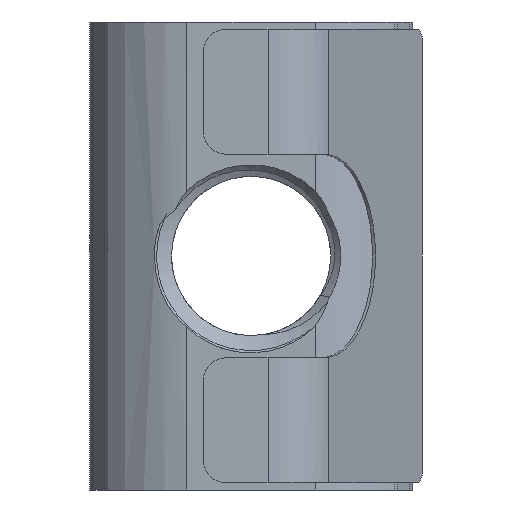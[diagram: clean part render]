
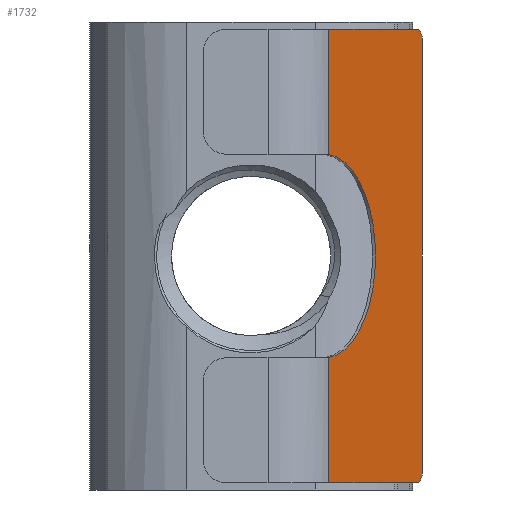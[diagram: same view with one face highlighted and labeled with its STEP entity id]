
A CAD part, front view. The second image highlights one B-rep face of the part: STEP entity #1732.
In plain terms, the highlighted planar face has unit normal (0.866, -0.5, 0) as drawn and (1, 0, 0) by its records, which use the part's own axes.
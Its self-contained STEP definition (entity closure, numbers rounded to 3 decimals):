
#218 = CARTESIAN_POINT ( 'NONE',  ( 0., 1.732, 9.7 ) ) ;
#334 = CARTESIAN_POINT ( 'NONE',  ( 0., 9.228, 9.7 ) ) ;
#463 = CARTESIAN_POINT ( 'NONE',  ( 0., 1.732, -9.7 ) ) ;
#516 = VECTOR ( 'NONE', #2509, 1000. ) ;
#572 = ORIENTED_EDGE ( 'NONE', *, *, #4513, .T. ) ;
#648 = ORIENTED_EDGE ( 'NONE', *, *, #3053, .T. ) ;
#689 = CIRCLE ( 'NONE', #3105, 0.5 ) ;
#844 = LINE ( 'NONE', #4774, #4335 ) ;
#877 = VERTEX_POINT ( 'NONE', #2157 ) ;
#926 = LINE ( 'NONE', #4544, #516 ) ;
#936 = DIRECTION ( 'NONE',  ( 0., 1., 0. ) ) ;
#1034 = EDGE_CURVE ( 'NONE', #1419, #4637, #4945, .T. ) ;
#1055 = ORIENTED_EDGE ( 'NONE', *, *, #1034, .F. ) ;
#1221 = DIRECTION ( 'NONE',  ( 0., 0., 1. ) ) ;
#1345 = CARTESIAN_POINT ( 'NONE',  ( 0., 1.732, 9.7 ) ) ;
#1402 = LINE ( 'NONE', #3020, #3691 ) ;
#1419 = VERTEX_POINT ( 'NONE', #2188 ) ;
#1430 = EDGE_CURVE ( 'NONE', #1419, #2655, #1402, .T. ) ;
#1440 = CIRCLE ( 'NONE', #3856, 0.5 ) ;
#1485 = DIRECTION ( 'NONE',  ( 1., 0., 0. ) ) ;
#1519 = DIRECTION ( 'NONE',  ( -1., 0., 0. ) ) ;
#1558 = ORIENTED_EDGE ( 'NONE', *, *, #1756, .T. ) ;
#1732 = ADVANCED_FACE ( 'NONE', ( #3815 ), #3793, .F. ) ;
#1756 = EDGE_CURVE ( 'NONE', #2385, #4637, #1440, .T. ) ;
#1826 = DIRECTION ( 'NONE',  ( 0., 0., 1. ) ) ;
#1837 = EDGE_LOOP ( 'NONE', ( #4477, #2646, #2842, #1558, #1055, #5148, #648, #572 ) ) ;
#1895 = DIRECTION ( 'NONE',  ( 0., 0., -1. ) ) ;
#2023 = DIRECTION ( 'NONE',  ( 1., 0., 0. ) ) ;
#2157 = CARTESIAN_POINT ( 'NONE',  ( 0., 9.728, -9.2 ) ) ;
#2188 = CARTESIAN_POINT ( 'NONE',  ( 0., 1.732, 9.7 ) ) ;
#2290 = DIRECTION ( 'NONE',  ( 0., 0., -1. ) ) ;
#2385 = VERTEX_POINT ( 'NONE', #2780 ) ;
#2393 = CARTESIAN_POINT ( 'NONE',  ( 0., 9.228, -9.7 ) ) ;
#2424 = CARTESIAN_POINT ( 'NONE',  ( 0., 9.228, -9.2 ) ) ;
#2509 = DIRECTION ( 'NONE',  ( 0., 0., -1. ) ) ;
#2646 = ORIENTED_EDGE ( 'NONE', *, *, #3499, .T. ) ;
#2655 = VERTEX_POINT ( 'NONE', #3684 ) ;
#2692 = AXIS2_PLACEMENT_3D ( 'NONE', #3081, #1519, #4394 ) ;
#2698 = CARTESIAN_POINT ( 'NONE',  ( 0., 1.732, -4.336 ) ) ;
#2734 = VERTEX_POINT ( 'NONE', #3240 ) ;
#2780 = CARTESIAN_POINT ( 'NONE',  ( 0., 9.728, 9.2 ) ) ;
#2842 = ORIENTED_EDGE ( 'NONE', *, *, #4147, .F. ) ;
#3020 = CARTESIAN_POINT ( 'NONE',  ( 0., 1.732, 9.7 ) ) ;
#3029 = CIRCLE ( 'NONE', #2692, 4.35 ) ;
#3053 = EDGE_CURVE ( 'NONE', #2655, #4594, #3029, .T. ) ;
#3081 = CARTESIAN_POINT ( 'NONE',  ( 0., 1.378, 0. ) ) ;
#3105 = AXIS2_PLACEMENT_3D ( 'NONE', #2424, #2023, #1221 ) ;
#3133 = LINE ( 'NONE', #463, #3515 ) ;
#3240 = CARTESIAN_POINT ( 'NONE',  ( 0., 1.732, -9.7 ) ) ;
#3392 = DIRECTION ( 'NONE',  ( -1., 0., 0. ) ) ;
#3463 = DIRECTION ( 'NONE',  ( 0., 0., 1. ) ) ;
#3499 = EDGE_CURVE ( 'NONE', #4611, #877, #689, .T. ) ;
#3515 = VECTOR ( 'NONE', #4808, 1000. ) ;
#3684 = CARTESIAN_POINT ( 'NONE',  ( 0., 1.732, 4.336 ) ) ;
#3691 = VECTOR ( 'NONE', #2290, 1000. ) ;
#3742 = EDGE_CURVE ( 'NONE', #2734, #4611, #3133, .T. ) ;
#3793 = PLANE ( 'NONE',  #5103 ) ;
#3815 = FACE_OUTER_BOUND ( 'NONE', #1837, .T. ) ;
#3856 = AXIS2_PLACEMENT_3D ( 'NONE', #4667, #1485, #3463 ) ;
#4147 = EDGE_CURVE ( 'NONE', #2385, #877, #926, .T. ) ;
#4335 = VECTOR ( 'NONE', #1895, 1000. ) ;
#4394 = DIRECTION ( 'NONE',  ( 0., 0., 1. ) ) ;
#4477 = ORIENTED_EDGE ( 'NONE', *, *, #3742, .T. ) ;
#4513 = EDGE_CURVE ( 'NONE', #4594, #2734, #844, .T. ) ;
#4544 = CARTESIAN_POINT ( 'NONE',  ( 0., 9.728, 9.7 ) ) ;
#4594 = VERTEX_POINT ( 'NONE', #2698 ) ;
#4611 = VERTEX_POINT ( 'NONE', #2393 ) ;
#4637 = VERTEX_POINT ( 'NONE', #334 ) ;
#4667 = CARTESIAN_POINT ( 'NONE',  ( 0., 9.228, 9.2 ) ) ;
#4774 = CARTESIAN_POINT ( 'NONE',  ( 0., 1.732, 9.7 ) ) ;
#4808 = DIRECTION ( 'NONE',  ( 0., 1., 0. ) ) ;
#4824 = VECTOR ( 'NONE', #936, 1000. ) ;
#4945 = LINE ( 'NONE', #1345, #4824 ) ;
#5103 = AXIS2_PLACEMENT_3D ( 'NONE', #218, #3392, #1826 ) ;
#5148 = ORIENTED_EDGE ( 'NONE', *, *, #1430, .T. ) ;
